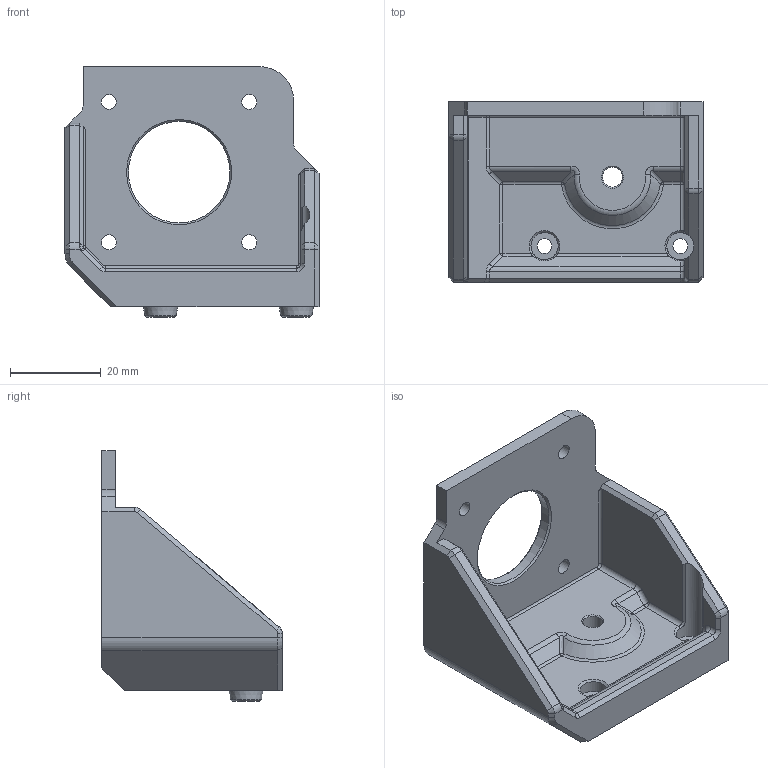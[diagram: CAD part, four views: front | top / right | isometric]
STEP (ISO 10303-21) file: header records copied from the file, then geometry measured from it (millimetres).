
FILE_DESCRIPTION(/* description */ (''),/* implementation_level */ '2;1');
FILE_NAME(/* name */ 'HMG7-E3D-Titan-Rear-Mount.step',/* time_stamp */ '2022-11-01T22:20:32-07:00',/* author */ (''),/* organization */ (''),/* preprocessor_version */ 'ST-DEVELOPER v19.2',/* originating_system */ 'Autodesk Translation Framework v11.17.0.187',/* authorisation */ '');
FILE_SCHEMA (('AUTOMOTIVE_DESIGN { 1 0 10303 214 3 1 1 }'));
Length unit declared in the file: millimetre
Products named in the file (3): GEN_7_1.5; E3D_Titan; E3D_Titan_Mount_Rear
Assembly tree (2 placements, depth 3):
  GEN_7_1.5
    E3D_Titan
      E3D_Titan_Mount_Rear
Bounding box: 56.1 x 39.83 x 55.38 mm (x, y, z)
Volume: 25228.1 mm3; surface area: 12794.1 mm2
Topology: 1 solids, 1 shells, 148 faces, 359 edges, 215 vertices
Faces by surface type: plane 48, cylinder 41, bspline 28, cone 22, sphere 5, torus 4
Full cylindrical faces by diameter (mm): 3.3 x6, 4.4 x1, 6 x2, 22.4 x1
Entity records: 4927 total; most frequent: CARTESIAN_POINT 1454, ORIENTED_EDGE 718, DIRECTION 684, EDGE_CURVE 359, AXIS2_PLACEMENT_3D 246, VERTEX_POINT 215, LINE 192, VECTOR 192
